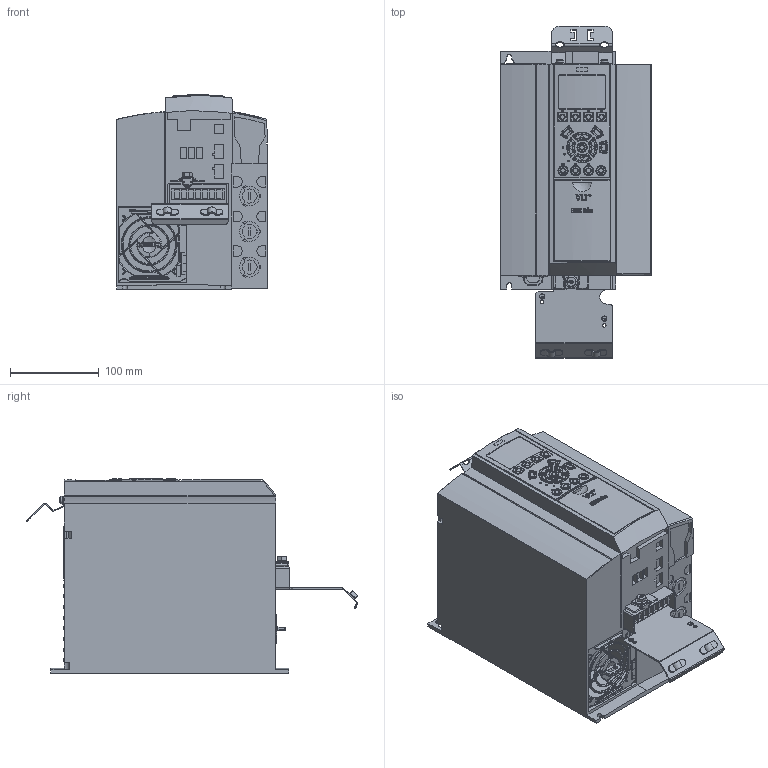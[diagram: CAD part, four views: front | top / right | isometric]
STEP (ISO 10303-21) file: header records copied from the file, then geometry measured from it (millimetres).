
FILE_DESCRIPTION((''),'2;1');
FILE_NAME('DANFOSS-FC100-A3-IP20-ABC-042','2007-03-02T',('Janardhan.Mankala'),('dan Drives A/S'),'PRO/ENGINEER BY PARAMETRIC TECHNOLOGY CORPORATION, 2006200','PRO/ENGINEER BY PARAMETRIC TECHNOLOGY CORPORATION, 2006200','');
FILE_SCHEMA(('CONFIG_CONTROL_DESIGN', 'GEOMETRIC_VALIDATION_PROPERTIES_MIM'));
Products named in the file (1): DANFOSS-FC100-A3-IP20-ABC-042
Bounding box: 170 x 373.69 x 219.01 mm (x, y, z)
Volume: 7923852.4 mm3; surface area: 355800.6 mm2
Topology: 1 solids, 17 shells, 2889 faces, 7370 edges, 4598 vertices
Faces by surface type: plane 1171, cylinder 723, bspline 640, torus 150, extrusion 88, sphere 67, cone 50
Entity records: 174352 total; most frequent: CARTESIAN_POINT 66910, ORIENTED_EDGE 14700, DIRECTION 10655, PRESENTATION_STYLE_ASSIGNMENT 9558, STYLED_ITEM 7393, CURVE_STYLE 7350, EDGE_CURVE 7350, VERTEX_POINT 4598
